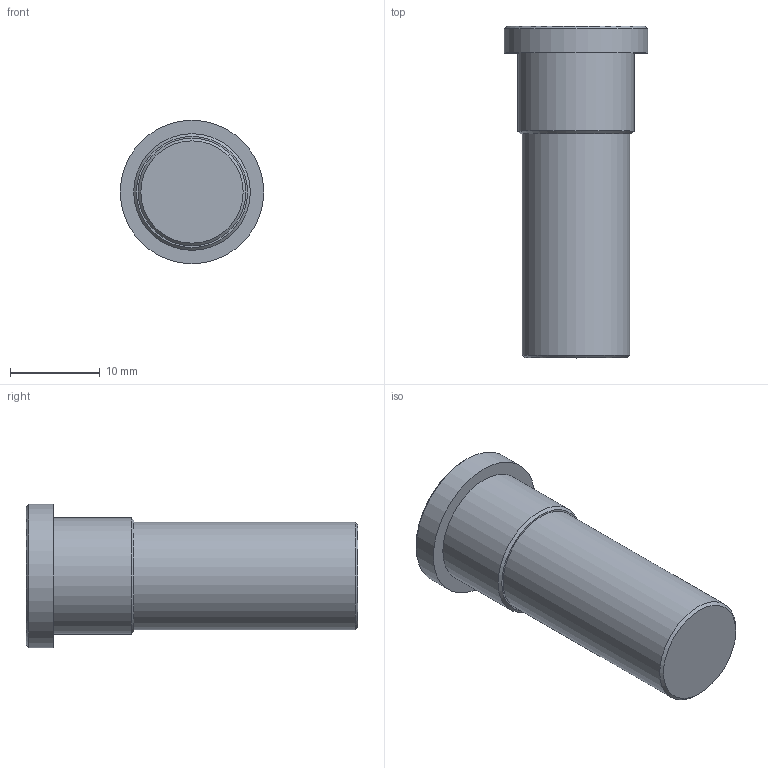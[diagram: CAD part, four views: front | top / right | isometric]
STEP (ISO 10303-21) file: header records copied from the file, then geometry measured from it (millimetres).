
FILE_DESCRIPTION((''),'2;1');
FILE_NAME('C:\Documents and Settings\rivolro1\Documenti\copia di Raccordi\PLASTICA\T09XX00\T091200.stp','2007-10-30T17:18:58',('Rivolro1'),(''),'Autodesk Inventor 2008','Autodesk Inventor 2008','');
FILE_SCHEMA(('AUTOMOTIVE_DESIGN { 1 0 10303 214 1 1 1 1 }'));
Length unit declared in the file: millimetre
Products named in the file (1): T091200
Bounding box: 16 x 37 x 16 mm (x, y, z)
Volume: 4619.5 mm3; surface area: 1840 mm2
Topology: 1 solids, 1 shells, 10 faces, 15 edges, 9 vertices
Faces by surface type: plane 4, cone 3, cylinder 3
Full cylindrical faces by diameter (mm): 12 x1, 13 x1, 16 x1
Entity records: 220 total; most frequent: DIRECTION 40, CARTESIAN_POINT 29, AXIS2_PLACEMENT_3D 20, ORIENTED_EDGE 18, EDGE_LOOP 18, FACE_OUTER_BOUND 10, ADVANCED_FACE 10, VERTEX_POINT 9
